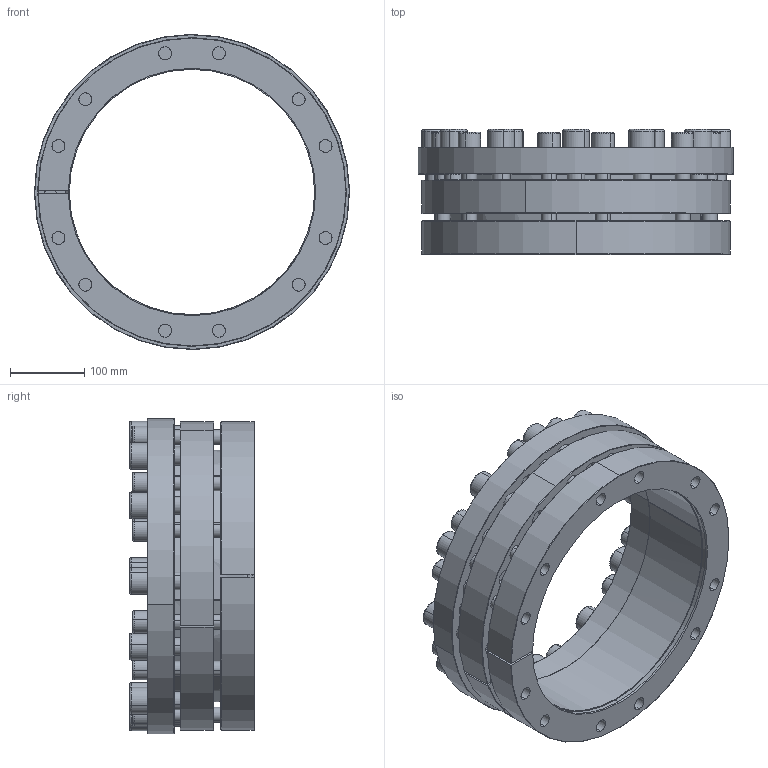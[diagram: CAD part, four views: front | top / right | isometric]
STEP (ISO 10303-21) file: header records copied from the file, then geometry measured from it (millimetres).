
FILE_DESCRIPTION (( 'STEP AP214' ), '1' );
FILE_NAME ('CONEX-P-330x415-P-032.step', '2015-11-30T21:14:28', ( '' ), ( '' ), 'SwSTEP 2.0', 'SolidWorks 2013', '' );
FILE_SCHEMA (( 'AUTOMOTIVE_DESIGN' ));
Length unit declared in the file: millimetre
Products named in the file (1): CONEX-P-330x415-P-032
Bounding box: 423.98 x 168.01 x 423.98 mm (x, y, z)
Volume: 6889965.7 mm3; surface area: 1201651.5 mm2
Topology: 27 solids, 27 shells, 856 faces, 1969 edges, 1168 vertices
Faces by surface type: plane 381, cylinder 247, cone 130, torus 98
Entity records: 33757 total; most frequent: DIRECTION 4537, CARTESIAN_POINT 4034, ORIENTED_EDGE 3842, EDGE_CURVE 1921, AXIS2_PLACEMENT_3D 1781, VERTEX_POINT 1168, EDGE_LOOP 1037, VECTOR 975
